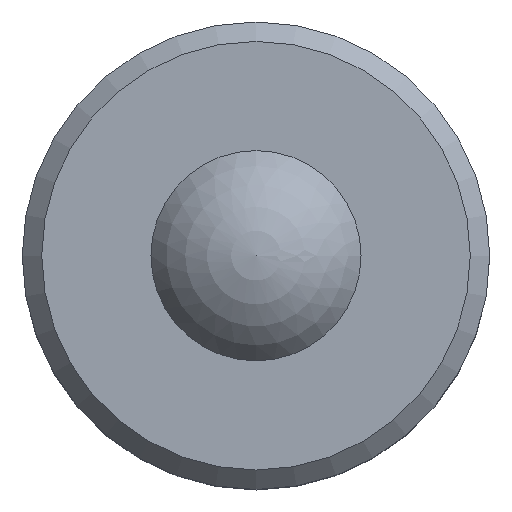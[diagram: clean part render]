
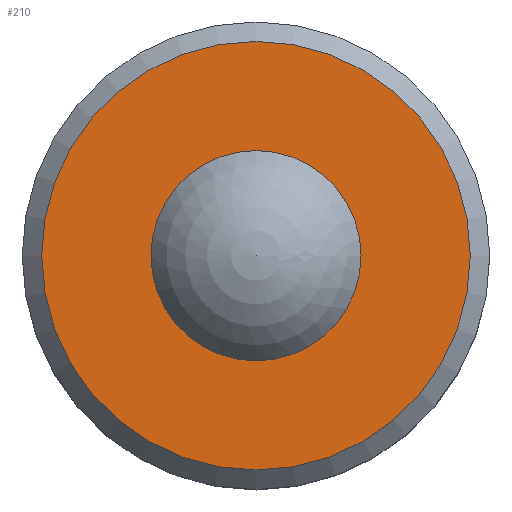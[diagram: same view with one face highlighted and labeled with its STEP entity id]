
A CAD part, top view. The second image highlights one B-rep face of the part: STEP entity #210.
In plain terms, the highlighted planar face has unit normal (0, 0, 1).
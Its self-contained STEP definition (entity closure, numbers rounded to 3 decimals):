
#21=FACE_BOUND('',#60,.T.);
#42=FACE_OUTER_BOUND('',#59,.T.);
#59=EDGE_LOOP('',(#182));
#60=EDGE_LOOP('',(#183));
#93=CIRCLE('',#240,5.5);
#95=CIRCLE('',#243,2.697);
#112=VERTEX_POINT('',#368);
#114=VERTEX_POINT('',#373);
#137=EDGE_CURVE('',#112,#112,#93,.T.);
#139=EDGE_CURVE('',#114,#114,#95,.T.);
#182=ORIENTED_EDGE('',*,*,#137,.F.);
#183=ORIENTED_EDGE('',*,*,#139,.T.);
#198=PLANE('',#242);
#210=ADVANCED_FACE('',(#42,#21),#198,.T.);
#240=AXIS2_PLACEMENT_3D('',#369,#294,#295);
#242=AXIS2_PLACEMENT_3D('',#372,#298,#299);
#243=AXIS2_PLACEMENT_3D('',#374,#300,#301);
#294=DIRECTION('center_axis',(0.,0.,-1.));
#295=DIRECTION('ref_axis',(1.,0.,0.));
#298=DIRECTION('center_axis',(0.,0.,1.));
#299=DIRECTION('ref_axis',(1.,0.,0.));
#300=DIRECTION('center_axis',(0.,0.,-1.));
#301=DIRECTION('ref_axis',(1.,0.,0.));
#368=CARTESIAN_POINT('',(-5.5,0.,1.675));
#369=CARTESIAN_POINT('Origin',(0.,0.,1.675));
#372=CARTESIAN_POINT('Origin',(-6.,0.,1.675));
#373=CARTESIAN_POINT('',(-2.697,0.,1.675));
#374=CARTESIAN_POINT('Origin',(0.,0.,1.675));
